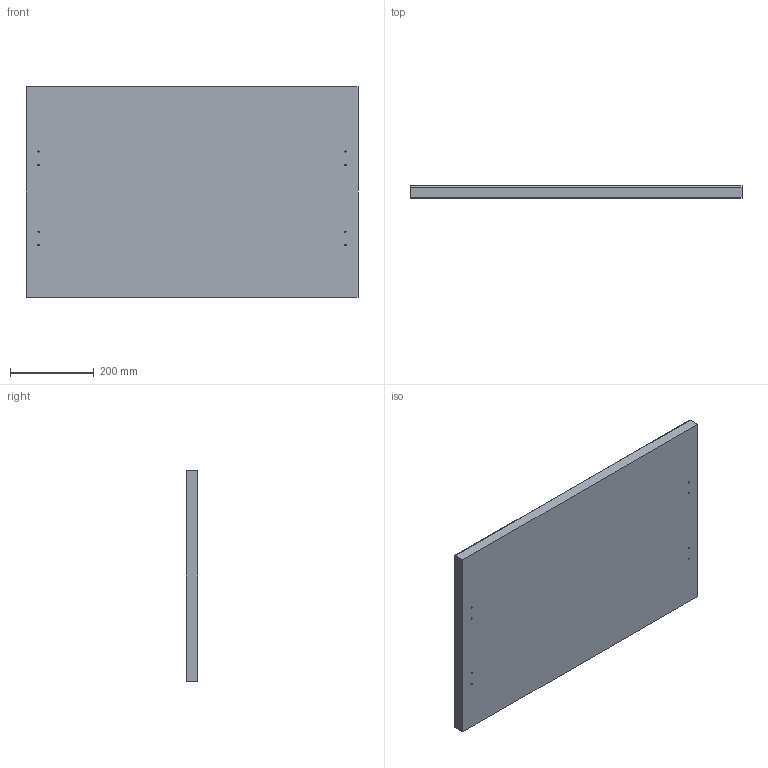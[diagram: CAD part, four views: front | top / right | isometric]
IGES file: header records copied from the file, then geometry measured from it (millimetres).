
Start section: SolidWorks IGES file using analytic representation for surfaces
Global section: file name: \\PDM-SQL\Technolodzy\WYROBY\_Nowa dokumentacja\BLAT VIGOUR - 167940, 167941, 167942, 167943, 167944, 167945\80.IGS; native system: SolidWorks 2012; preprocessor: SolidWorks 2012; author: rkopecki; date: 200625.131023; units: millimetre
Bounding box: 794 x 28 x 504 mm (x, y, z)
Surface area: 871138.3 mm2 (no closed solid volume)
Topology: 0 solids, 0 shells, 32 faces, 512 edges, 512 vertices
Faces by surface type: revolution 18, bspline 14
